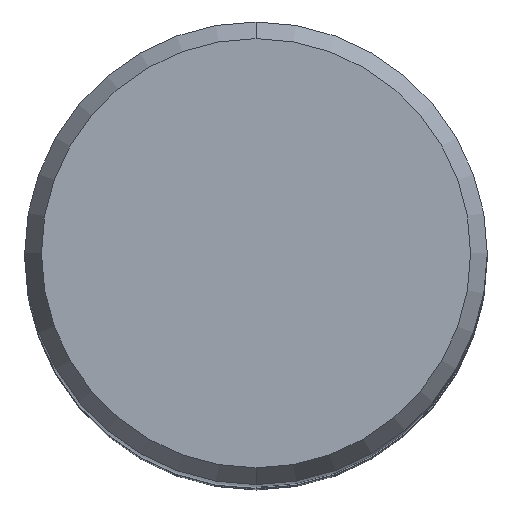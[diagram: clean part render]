
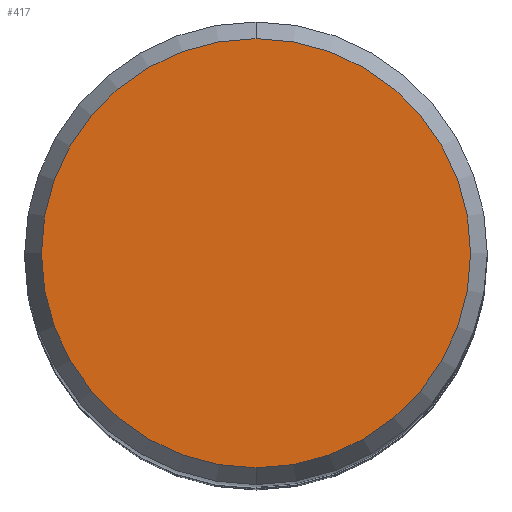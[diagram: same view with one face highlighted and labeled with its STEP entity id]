
A CAD part, top view. The second image highlights one B-rep face of the part: STEP entity #417.
In plain terms, the highlighted planar face has unit normal (0, 0, 1).
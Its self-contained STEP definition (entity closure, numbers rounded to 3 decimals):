
#289=EDGE_CURVE('',#343,#317,#702,.T.);
#317=VERTEX_POINT('',#731);
#343=VERTEX_POINT('',#760);
#389=EDGE_CURVE('',#317,#343,#809,.T.);
#417=ADVANCED_FACE('',(#839),#840,.T.);
#702=CIRCLE('',#1178,7.423);
#731=CARTESIAN_POINT('',(0.0,7.423,0.0));
#760=CARTESIAN_POINT('',(0.,-7.423,0.0));
#809=CIRCLE('',#1448,7.423);
#839=FACE_OUTER_BOUND('',#1512,.T.);
#840=PLANE('',#1513);
#1178=AXIS2_PLACEMENT_3D('',#2007,#2008,#2009);
#1448=AXIS2_PLACEMENT_3D('',#2109,#2110,#2111);
#1512=EDGE_LOOP('',(#2138,#2139));
#1513=AXIS2_PLACEMENT_3D('',#2140,#2141,#2142);
#2007=CARTESIAN_POINT('',(0.0,0.0,0.0));
#2008=DIRECTION('',(0.0,0.0,-1.0));
#2009=DIRECTION('',(0.0,1.0,0.0));
#2109=CARTESIAN_POINT('',(0.0,0.0,0.0));
#2110=DIRECTION('',(0.0,0.0,-1.0));
#2111=DIRECTION('',(0.0,1.0,0.0));
#2138=ORIENTED_EDGE('',*,*,#389,.F.);
#2139=ORIENTED_EDGE('',*,*,#289,.F.);
#2140=CARTESIAN_POINT('',(0.0,3.711,0.0));
#2141=DIRECTION('',(-0.0,0.0,1.0));
#2142=DIRECTION('',(0.0,-1.0,0.0));
